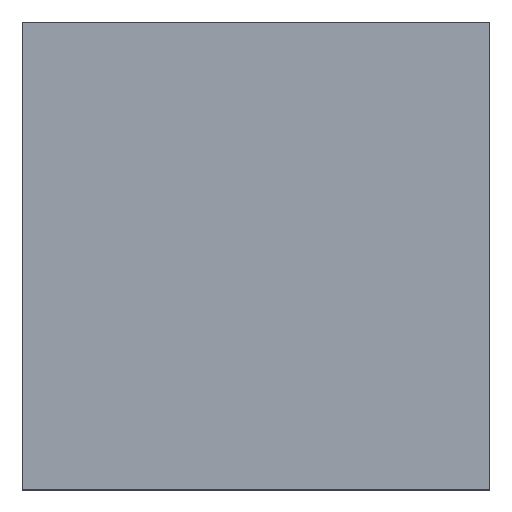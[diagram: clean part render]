
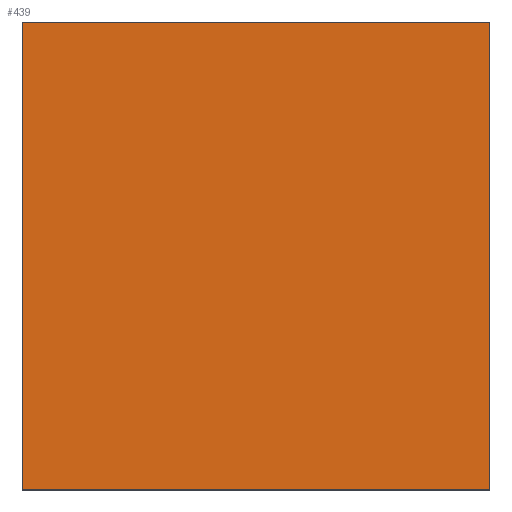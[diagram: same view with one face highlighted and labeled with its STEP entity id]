
A CAD part, top view. The second image highlights one B-rep face of the part: STEP entity #439.
In plain terms, the highlighted planar face has unit normal (0, 0, 1).
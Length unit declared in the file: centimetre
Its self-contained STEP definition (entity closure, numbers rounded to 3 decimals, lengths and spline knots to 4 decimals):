
#16 = AXIS2_PLACEMENT_3D ( 'NONE', #583, #352, #539 ) ;
#17 = CARTESIAN_POINT ( 'NONE',  ( 0., 0., 1000. ) ) ;
#24 = CARTESIAN_POINT ( 'NONE',  ( 0., 1000., 1000. ) ) ;
#62 = EDGE_CURVE ( 'NONE', #132, #508, #212, .T. ) ;
#64 = LINE ( 'NONE', #24, #367 ) ;
#69 = VECTOR ( 'NONE', #114, 100. ) ;
#113 = DIRECTION ( 'NONE',  ( -1., 0., 0. ) ) ;
#114 = DIRECTION ( 'NONE',  ( 0., 1., 0. ) ) ;
#132 = VERTEX_POINT ( 'NONE', #292 ) ;
#143 = ORIENTED_EDGE ( 'NONE', *, *, #62, .T. ) ;
#159 = CARTESIAN_POINT ( 'NONE',  ( 1000., 0., 1000. ) ) ;
#161 = LINE ( 'NONE', #307, #516 ) ;
#202 = FACE_OUTER_BOUND ( 'NONE', #517, .T. ) ;
#212 = LINE ( 'NONE', #17, #501 ) ;
#243 = DIRECTION ( 'NONE',  ( 0., -1., 0. ) ) ;
#292 = CARTESIAN_POINT ( 'NONE',  ( 0., 0., 1000. ) ) ;
#307 = CARTESIAN_POINT ( 'NONE',  ( 0., 1000., 1000. ) ) ;
#326 = VERTEX_POINT ( 'NONE', #363 ) ;
#341 = EDGE_CURVE ( 'NONE', #326, #544, #161, .T. ) ;
#351 = EDGE_CURVE ( 'NONE', #544, #132, #64, .T. ) ;
#352 = DIRECTION ( 'NONE',  ( 0., 0., 1. ) ) ;
#358 = ORIENTED_EDGE ( 'NONE', *, *, #341, .T. ) ;
#363 = CARTESIAN_POINT ( 'NONE',  ( 1000., 1000., 1000. ) ) ;
#367 = VECTOR ( 'NONE', #243, 100. ) ;
#392 = PLANE ( 'NONE',  #16 ) ;
#436 = DIRECTION ( 'NONE',  ( 1., 0., 0. ) ) ;
#438 = LINE ( 'NONE', #584, #69 ) ;
#439 = ADVANCED_FACE ( 'NONE', ( #202 ), #392, .T. ) ;
#441 = CARTESIAN_POINT ( 'NONE',  ( 0., 1000., 1000. ) ) ;
#470 = ORIENTED_EDGE ( 'NONE', *, *, #351, .T. ) ;
#501 = VECTOR ( 'NONE', #436, 100. ) ;
#508 = VERTEX_POINT ( 'NONE', #159 ) ;
#512 = ORIENTED_EDGE ( 'NONE', *, *, #533, .T. ) ;
#516 = VECTOR ( 'NONE', #113, 100. ) ;
#517 = EDGE_LOOP ( 'NONE', ( #470, #143, #512, #358 ) ) ;
#533 = EDGE_CURVE ( 'NONE', #508, #326, #438, .T. ) ;
#539 = DIRECTION ( 'NONE',  ( 1., 0., 0. ) ) ;
#544 = VERTEX_POINT ( 'NONE', #441 ) ;
#583 = CARTESIAN_POINT ( 'NONE',  ( 0., 0., 1000. ) ) ;
#584 = CARTESIAN_POINT ( 'NONE',  ( 1000., 1000., 1000. ) ) ;
